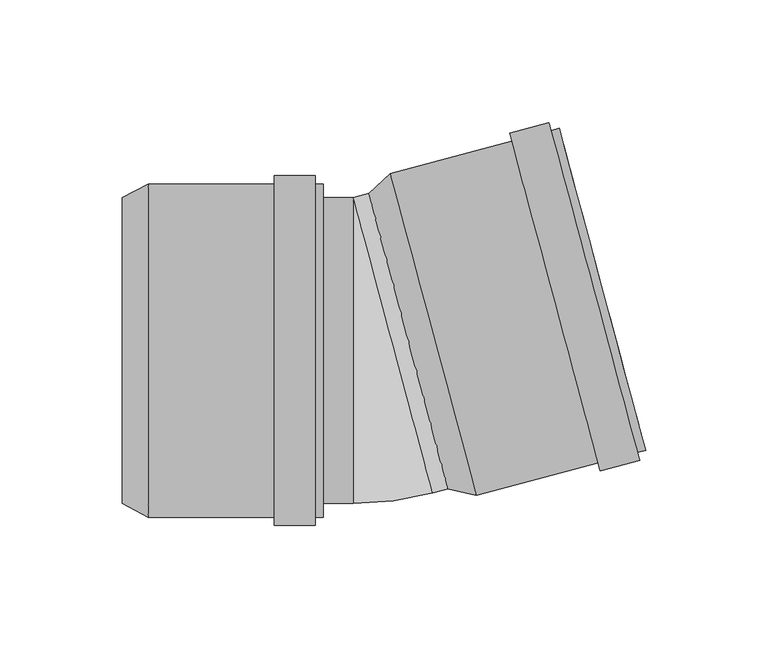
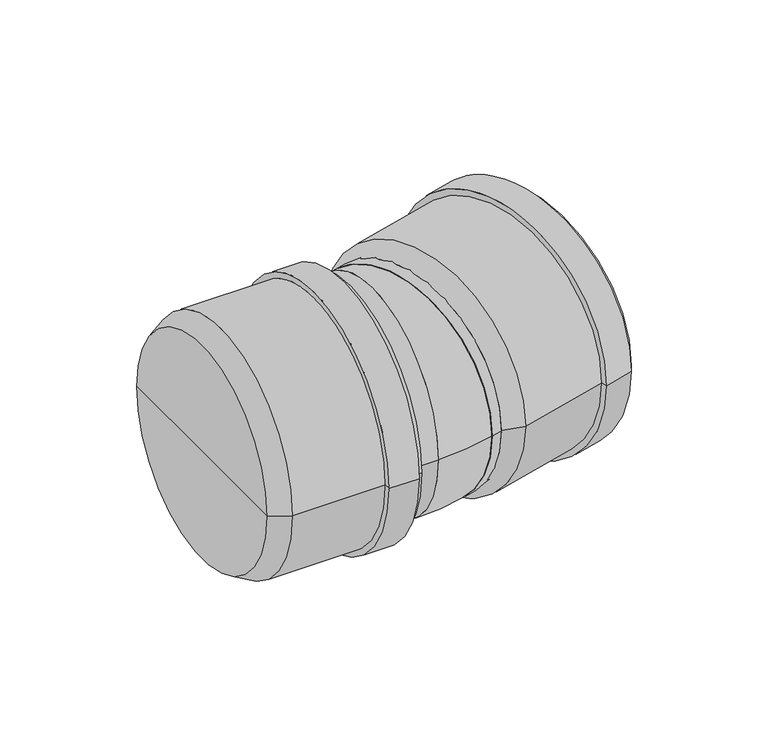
"""IFC4 building model written with IfcOpenShell, lengths in millimetres: pipe fitting geometry, pf_HTB : pf_HTB."""

from ifc_helpers import new_model, si_unit, point, frame, origin, origin_2d, place, context, project, spatial, polyline, circle_curve, ellipse_curve, trimmed, segment, composite_curve, outline, extrude, source, transform, mapped, element, save
from ifc_brep_helpers import plane_surface, cylinder_surface, revolved_surface, advanced_brep


def pipe_fitting_35804287(model_context):
    return source(origin(), model_context, "Body", "SolidModel", [
        advanced_brep(
        [(30.3753, -56.5657242, 0.0), (-1.9770807, 64.1750041, 0.0), (6.7157539, 72.3017887, 0.0), (41.9669078, -59.2573088, 0.0), (14.1991096, 3.80464, 0.0), (111.0306044, -40.7517471, 0.0), (75.7794504, 90.8073504, 0.0), (77.2288371, 85.3981658, 0.0), (109.5812177, -35.3425625, 0.0), (107.7464566, -41.6317319, 0.0), (72.4953026, 89.9273657, 0.0), (108.6264413, -44.9158797, 0.0), (71.6153179, 93.2115135, 0.0), (92.5920726, -49.2122758, 0.0), (55.5809492, 88.9151173, 0.0), (91.7120878, -45.928128, 0.0), (56.4609339, 85.6309695, 0.0), (40.5175211, -53.8481242, 0.0), (8.1651405, 66.8926041, 0.0), (24.3413308, 6.5222399, 0.0)],
        [
            (0, 1, circle_curve(frame((14.1991096, 3.80464, 0.0), z_axis=(0.9659258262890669, 0.25881904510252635, 0.0), x_axis=(-0.25881904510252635, 0.9659258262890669, 0.0)), 62.5)),
            (1, 2),
            (2, 3, circle_curve(frame((24.3413308, 6.5222399, 0.0), z_axis=(-0.9659258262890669, -0.25881904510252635, 0.0), x_axis=(-0.25881904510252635, 0.9659258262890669, 0.0)), 68.1)),
            (3, 0),
            (1, 0, circle_curve(frame((14.1991096, 3.80464, 0.0), z_axis=(0.9659258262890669, 0.25881904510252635, 0.0), x_axis=(-0.25881904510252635, 0.9659258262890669, 0.0)), 62.5)),
            (3, 2, circle_curve(frame((24.3413308, 6.5222399, 0.0), z_axis=(-0.9659258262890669, -0.25881904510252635, 0.0), x_axis=(-0.25881904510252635, 0.9659258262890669, 0.0)), 68.1)),
            (4, 1),
            (0, 4),
            (5, 6, circle_curve(frame((93.4050274, 25.0278017, 0.0), z_axis=(0.9659258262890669, 0.25881904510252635, 0.0), x_axis=(-0.25881904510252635, 0.9659258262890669, 0.0)), 68.1)),
            (6, 7),
            (7, 8, circle_curve(frame((93.4050274, 25.0278017, 0.0), z_axis=(-0.9659258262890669, -0.25881904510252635, 0.0), x_axis=(-0.25881904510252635, 0.9659258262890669, 0.0)), 62.5)),
            (8, 5),
            (6, 5, circle_curve(frame((93.4050274, 25.0278017, 0.0), z_axis=(0.9659258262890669, 0.25881904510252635, 0.0), x_axis=(-0.25881904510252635, 0.9659258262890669, 0.0)), 68.1)),
            (8, 7, circle_curve(frame((93.4050274, 25.0278017, 0.0), z_axis=(-0.9659258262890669, -0.25881904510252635, 0.0), x_axis=(-0.25881904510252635, 0.9659258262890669, 0.0)), 62.5)),
            (9, 10, circle_curve(frame((90.1208796, 24.1478169, 0.0), z_axis=(0.9659258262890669, 0.25881904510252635, 0.0), x_axis=(-0.25881904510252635, 0.9659258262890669, 0.0)), 68.1)),
            (10, 6),
            (5, 9),
            (10, 9, circle_curve(frame((90.1208796, 24.1478169, 0.0), z_axis=(0.9659258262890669, 0.25881904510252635, 0.0), x_axis=(-0.25881904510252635, 0.9659258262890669, 0.0)), 68.1)),
            (11, 12, circle_curve(frame((90.1208796, 24.1478169, 0.0), z_axis=(0.9659258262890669, 0.25881904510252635, 0.0), x_axis=(-0.25881904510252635, 0.9659258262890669, 0.0)), 71.5)),
            (12, 10),
            (9, 11),
            (12, 11, circle_curve(frame((90.1208796, 24.1478169, 0.0), z_axis=(0.9659258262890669, 0.25881904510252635, 0.0), x_axis=(-0.25881904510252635, 0.9659258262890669, 0.0)), 71.5)),
            (13, 14, circle_curve(frame((74.0865109, 19.8514208, 0.0), z_axis=(0.9659258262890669, 0.25881904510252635, 0.0), x_axis=(-0.25881904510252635, 0.9659258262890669, 0.0)), 71.5)),
            (14, 12),
            (11, 13),
            (14, 13, circle_curve(frame((74.0865109, 19.8514208, 0.0), z_axis=(0.9659258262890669, 0.25881904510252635, 0.0), x_axis=(-0.25881904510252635, 0.9659258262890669, 0.0)), 71.5)),
            (15, 16, circle_curve(frame((74.0865109, 19.8514208, 0.0), z_axis=(0.9659258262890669, 0.25881904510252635, 0.0), x_axis=(-0.25881904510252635, 0.9659258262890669, 0.0)), 68.1)),
            (16, 14),
            (13, 15),
            (16, 15, circle_curve(frame((74.0865109, 19.8514208, 0.0), z_axis=(0.9659258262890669, 0.25881904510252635, 0.0), x_axis=(-0.25881904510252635, 0.9659258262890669, 0.0)), 68.1)),
            (2, 16),
            (15, 3),
            (17, 18, circle_curve(frame((24.3413308, 6.5222399, 0.0), z_axis=(0.9659258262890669, 0.25881904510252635, 0.0), x_axis=(-0.25881904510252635, 0.9659258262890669, 0.0)), 62.5)),
            (18, 19),
            (19, 17),
            (18, 17, circle_curve(frame((24.3413308, 6.5222399, 0.0), z_axis=(0.9659258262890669, 0.25881904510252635, 0.0), x_axis=(-0.25881904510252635, 0.9659258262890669, 0.0)), 62.5)),
            (7, 18),
            (17, 8),
        ],
        [
            revolved_surface(polyline([(6.7157539, 72.3017887, 0.0), (-1.9770807, 64.1750041, 0.0)]), (14.1991096, 3.80464, 0.0), (-0.9659258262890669, -0.25881904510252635, 0.0)),
            plane_surface(frame((14.1991096, 3.80464, 0.0), z_axis=(-0.9659258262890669, -0.25881904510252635, 0.0), x_axis=(-0.25881904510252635, 0.9659258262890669, 0.0))),
            plane_surface(frame((93.4050274, 25.0278017, 0.0), z_axis=(0.9659258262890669, 0.25881904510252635, 0.0), x_axis=(-0.25881904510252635, 0.9659258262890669, 0.0))),
            cylinder_surface(frame((14.1991096, 3.80464, 0.0), z_axis=(-0.9659258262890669, -0.25881904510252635, 0.0), x_axis=(-0.25881904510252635, 0.9659258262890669, 0.0)), 68.1),
            plane_surface(frame((90.1208796, 24.1478169, 0.0), z_axis=(0.9659258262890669, 0.25881904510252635, 0.0), x_axis=(-0.25881904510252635, 0.9659258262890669, 0.0))),
            cylinder_surface(frame((14.1991096, 3.80464, 0.0), z_axis=(-0.9659258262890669, -0.25881904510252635, 0.0), x_axis=(-0.25881904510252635, 0.9659258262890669, 0.0)), 71.5),
            plane_surface(frame((74.0865109, 19.8514208, 0.0), z_axis=(-0.9659258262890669, -0.25881904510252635, 0.0), x_axis=(-0.25881904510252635, 0.9659258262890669, 0.0))),
            plane_surface(frame((24.3413308, 6.5222399, 0.0), z_axis=(0.9659258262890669, 0.25881904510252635, 0.0), x_axis=(-0.25881904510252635, 0.9659258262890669, 0.0))),
            revolved_surface(polyline([(8.165140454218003, 66.89260411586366, 0.0), (77.22883708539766, 85.39816585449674, 0.0)]), (14.1991096, 3.80464, 0.0), (-0.9659258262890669, -0.25881904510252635, 0.0)),
        ],
        [
            (0, [[1, 2, 3, 4]]),
            (0, [[5, -4, 6, -2]]),
            (1, [[7, -1, 8]]),
            (1, [[-8, -5, -7]]),
            (2, [[9, 10, 11, 12]]),
            (2, [[13, -12, 14, -10]]),
            (3, [[15, 16, -9, 17]]),
            (3, [[18, -17, -13, -16]]),
            (4, [[19, 20, -15, 21]]),
            (4, [[22, -21, -18, -20]]),
            (5, [[23, 24, -19, 25]]),
            (5, [[26, -25, -22, -24]]),
            (6, [[27, 28, -23, 29]]),
            (6, [[30, -29, -26, -28]]),
            (3, [[-3, 31, -27, 32]]),
            (3, [[-6, -32, -30, -31]]),
            (7, [[33, 34, 35]]),
            (7, [[36, -35, -34]]),
            (8, [[-11, 37, -33, 38]]),
            (8, [[-14, -38, -36, -37]]),
        ],
    ),
        advanced_brep(
        [(-102.5, -62.5, 0.0), (-102.5, 62.5, 0.0), (-92.0, 68.1, 0.0), (-92.0, -68.1, 0.0), (-102.5, 0.0, 0.0), (-20.5, -68.1, 0.0), (-20.5, 68.1, 0.0), (-20.5, 62.5, 0.0), (-20.5, -62.5, 0.0), (-23.9, -68.1, 0.0), (-23.9, 68.1, 0.0), (-23.9, -71.5, 0.0), (-23.9, 71.5, 0.0), (-40.5, -71.5, 0.0), (-40.5, 71.5, 0.0), (-40.5, -68.1, 0.0), (-40.5, 68.1, 0.0), (-92.0, -62.5, 0.0), (-92.0, 62.5, 0.0), (-92.0, 0.0, 0.0)],
        [
            (0, 1, circle_curve(frame((-102.5, 0.0, 0.0), z_axis=(1.0, 0.0, 0.0), x_axis=(0.0, 1.0, 0.0)), 62.5)),
            (1, 2),
            (2, 3, circle_curve(frame((-92.0, 0.0, 0.0), z_axis=(-1.0, 0.0, 0.0), x_axis=(0.0, 1.0, 0.0)), 68.1)),
            (3, 0),
            (1, 0, circle_curve(frame((-102.5, 0.0, 0.0), z_axis=(1.0, 0.0, 0.0), x_axis=(0.0, 1.0, 0.0)), 62.5)),
            (3, 2, circle_curve(frame((-92.0, 0.0, 0.0), z_axis=(-1.0, 0.0, 0.0), x_axis=(0.0, 1.0, 0.0)), 68.1)),
            (4, 1),
            (0, 4),
            (5, 6, circle_curve(frame((-20.5, 0.0, 0.0), z_axis=(1.0, 0.0, 0.0), x_axis=(0.0, 1.0, 0.0)), 68.1)),
            (6, 7),
            (7, 8, circle_curve(frame((-20.5, 0.0, 0.0), z_axis=(-1.0, 0.0, 0.0), x_axis=(0.0, 1.0, 0.0)), 62.5)),
            (8, 5),
            (6, 5, circle_curve(frame((-20.5, 0.0, 0.0), z_axis=(1.0, 0.0, 0.0), x_axis=(0.0, 1.0, 0.0)), 68.1)),
            (8, 7, circle_curve(frame((-20.5, 0.0, 0.0), z_axis=(-1.0, 0.0, 0.0), x_axis=(0.0, 1.0, 0.0)), 62.5)),
            (9, 10, circle_curve(frame((-23.9, 0.0, 0.0), z_axis=(1.0, 0.0, 0.0), x_axis=(0.0, 1.0, 0.0)), 68.1)),
            (10, 6),
            (5, 9),
            (10, 9, circle_curve(frame((-23.9, 0.0, 0.0), z_axis=(1.0, 0.0, 0.0), x_axis=(0.0, 1.0, 0.0)), 68.1)),
            (11, 12, circle_curve(frame((-23.9, 0.0, 0.0), z_axis=(1.0, 0.0, 0.0), x_axis=(0.0, 1.0, 0.0)), 71.5)),
            (12, 10),
            (9, 11),
            (12, 11, circle_curve(frame((-23.9, 0.0, 0.0), z_axis=(1.0, 0.0, 0.0), x_axis=(0.0, 1.0, 0.0)), 71.5)),
            (13, 14, circle_curve(frame((-40.5, 0.0, 0.0), z_axis=(1.0, 0.0, 0.0), x_axis=(0.0, 1.0, 0.0)), 71.5)),
            (14, 12),
            (11, 13),
            (14, 13, circle_curve(frame((-40.5, 0.0, 0.0), z_axis=(1.0, 0.0, 0.0), x_axis=(0.0, 1.0, 0.0)), 71.5)),
            (15, 16, circle_curve(frame((-40.5, 0.0, 0.0), z_axis=(1.0, 0.0, 0.0), x_axis=(0.0, 1.0, 0.0)), 68.1)),
            (16, 14),
            (13, 15),
            (16, 15, circle_curve(frame((-40.5, 0.0, 0.0), z_axis=(1.0, 0.0, 0.0), x_axis=(0.0, 1.0, 0.0)), 68.1)),
            (2, 16),
            (15, 3),
            (17, 18, circle_curve(frame((-92.0, 0.0, 0.0), z_axis=(1.0, 0.0, 0.0), x_axis=(0.0, 1.0, 0.0)), 62.5)),
            (18, 19),
            (19, 17),
            (18, 17, circle_curve(frame((-92.0, 0.0, 0.0), z_axis=(1.0, 0.0, 0.0), x_axis=(0.0, 1.0, 0.0)), 62.5)),
            (7, 18),
            (17, 8),
        ],
        [
            revolved_surface(polyline([(-92.0, 68.1, 0.0), (-102.5, 62.5, 0.0)]), (-102.5, 0.0, 0.0), (-1.0, 0.0, 0.0)),
            plane_surface(frame((-102.5, 0.0, 0.0), z_axis=(-1.0, 0.0, 0.0), x_axis=(0.0, 1.0, 0.0))),
            plane_surface(frame((-20.5, 0.0, 0.0), z_axis=(1.0, 0.0, 0.0), x_axis=(0.0, 1.0, 0.0))),
            cylinder_surface(frame((-102.5, 0.0, 0.0), z_axis=(-1.0, 0.0, 0.0), x_axis=(0.0, 1.0, 0.0)), 68.1),
            plane_surface(frame((-23.9, 0.0, 0.0), z_axis=(1.0, 0.0, 0.0), x_axis=(0.0, 1.0, 0.0))),
            cylinder_surface(frame((-102.5, 0.0, 0.0), z_axis=(-1.0, 0.0, 0.0), x_axis=(0.0, 1.0, 0.0)), 71.5),
            plane_surface(frame((-40.5, 0.0, 0.0), z_axis=(-1.0, 0.0, 0.0), x_axis=(0.0, 1.0, 0.0))),
            plane_surface(frame((-92.0, 0.0, 0.0), z_axis=(1.0, 0.0, 0.0), x_axis=(0.0, 1.0, 0.0))),
            revolved_surface(polyline([(-92.0, 62.5, 0.0), (-20.5, 62.5, 0.0)]), (-102.5, 0.0, 0.0), (-1.0, 0.0, 0.0)),
        ],
        [
            (0, [[1, 2, 3, 4]]),
            (0, [[5, -4, 6, -2]]),
            (1, [[7, -1, 8]]),
            (1, [[-8, -5, -7]]),
            (2, [[9, 10, 11, 12]]),
            (2, [[13, -12, 14, -10]]),
            (3, [[15, 16, -9, 17]]),
            (3, [[18, -17, -13, -16]]),
            (4, [[19, 20, -15, 21]]),
            (4, [[22, -21, -18, -20]]),
            (5, [[23, 24, -19, 25]]),
            (5, [[26, -25, -22, -24]]),
            (6, [[27, 28, -23, 29]]),
            (6, [[30, -29, -26, -28]]),
            (3, [[-3, 31, -27, 32]]),
            (3, [[-6, -32, -30, -31]]),
            (7, [[33, 34, 35]]),
            (7, [[36, -35, -34]]),
            (8, [[-11, 37, -33, 38]]),
            (8, [[-14, -38, -36, -37]]),
        ],
    ),
        extrude(outline(composite_curve([segment(trimmed(circle_curve(origin_2d(), 62.5), [point((0.0, -62.5))], [point((0.0, 62.5000001))], False, "CARTESIAN"), True, "CONTINUOUS"), segment(trimmed(circle_curve(origin_2d(), 62.5), [point((0.0, 62.5000001))], [point((0.0, -62.5))], False, "CARTESIAN"), True, "CONTINUOUS")], self_intersect=False)), frame((7.9479092, 2.1296359, 0.0), z_axis=(0.9659258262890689, 0.258819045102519, 0.0), x_axis=(0.0, 0.0, 1.0)), (0.0, 0.0, 1.0), 16.9717189),
        extrude(outline(composite_curve([segment(trimmed(circle_curve(origin_2d(), 62.5), [point((-62.5, 0.0))], [point((62.5, 0.0))], False, "CARTESIAN"), True, "CONTINUOUS"), segment(trimmed(circle_curve(origin_2d(), 62.5), [point((62.5, 0.0))], [point((-62.5, 0.0))], False, "CARTESIAN"), True, "CONTINUOUS")], self_intersect=False)), frame((-92.0, 0.0, 0.0), z_axis=(1.0, 0.0, 0.0), x_axis=(0.0, 1.0, 0.0)), (0.0, 0.0, 1.0), 83.7717189),
        advanced_brep(
        [(-8.2282811, -62.5, 0.0), (-8.2282811, 62.5, 0.0), (24.1240995, -58.2407283, 0.0)],
        [
            (0, 1, circle_curve(frame((-8.2282811, 0.0, 0.0), z_axis=(-1.0, 0.0, 0.0), x_axis=(0.0, 1.0, 0.0)), 62.5)),
            (1, 0, circle_curve(frame((-8.2282811, 0.0, 0.0), z_axis=(-1.0, 0.0, 0.0), x_axis=(0.0, 1.0, 0.0)), 62.5)),
            (2, 1, circle_curve(frame((7.9479092, 2.1296359, 0.0), z_axis=(0.9659258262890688, 0.25881904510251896, 0.0), x_axis=(-0.25881904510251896, 0.9659258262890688, 0.0)), 62.5)),
            (1, 2, circle_curve(frame((7.9479092, 2.1296359, 0.0), z_axis=(0.9659258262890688, 0.25881904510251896, 0.0), x_axis=(-0.25881904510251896, 0.9659258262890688, 0.0)), 62.5)),
            (2, 0, circle_curve(frame((-8.2282811, 62.5, 0.0), z_axis=(0.0, 0.0, -1.0), x_axis=(0.0, -1.0, 0.0)), 125.0)),
        ],
        [
            plane_surface(frame((-8.2282811, 62.5, -14.8), z_axis=(-1.0, 0.0, 0.0), x_axis=(0.0, -1.0, 0.0))),
            plane_surface(frame((-8.2282811, 62.5, -14.8), z_axis=(0.9659258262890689, 0.258819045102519, 0.0), x_axis=(0.258819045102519, -0.9659258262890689, 0.0))),
            revolved_surface(trimmed(ellipse_curve(frame((-8.2282811, 0.0, 0.0), z_axis=(1.0, 0.0, 0.0), x_axis=(0.0, 1.0, 0.0)), 62.5, 62.5), [point((-8.2282811, -62.5, 0.0))], [point((-8.2282811, 62.5, 0.0))], True, "CARTESIAN"), (-8.2282811, 62.5, -14.8), (0.0, 0.0, -1.0)),
            revolved_surface(trimmed(ellipse_curve(frame((-8.2282811, 0.0, 0.0), z_axis=(1.0, 0.0, 0.0), x_axis=(0.0, 1.0, 0.0)), 62.5, 62.5), [point((-8.2282811, 62.5, 0.0))], [point((-8.2282811, -62.5, 0.0))], True, "CARTESIAN"), (-8.2282811, 62.5, -14.8), (0.0, 0.0, -1.0)),
        ],
        [
            (0, [[1, 2]]),
            (1, [[3, 4]]),
            (2, [[5, -2, -3]]),
            (3, [[-1, -5, -4]]),
        ],
    ),
    ])


if __name__ == "__main__":
    model = new_model("IFC4")
    model_context = context("Model", 3, world=origin())
    ifc_project = project(units=[si_unit("LENGTHUNIT", "METRE", prefix="MILLI")], contexts=[model_context])
    site = spatial("IfcSite", under=ifc_project)
    building = spatial("IfcBuilding", under=site)
    placement = place(None, origin())
    pipe_fitting_shape = pipe_fitting_35804287(model_context)
    element("IfcPipeFitting", 1, ObjectType="pf_HTB : pf_HTB", at=placement, inside=building, context=model_context, shape_type="MappedRepresentation", body=[
        mapped(pipe_fitting_shape, transform((0.0, 0.0, 0.0), x_axis=(1.0, 0.0, 0.0), y_axis=(0.0, 1.0, 0.0), z_axis=(0.0, 0.0, 1.0))),
    ])
    save(model, "model.ifc")
